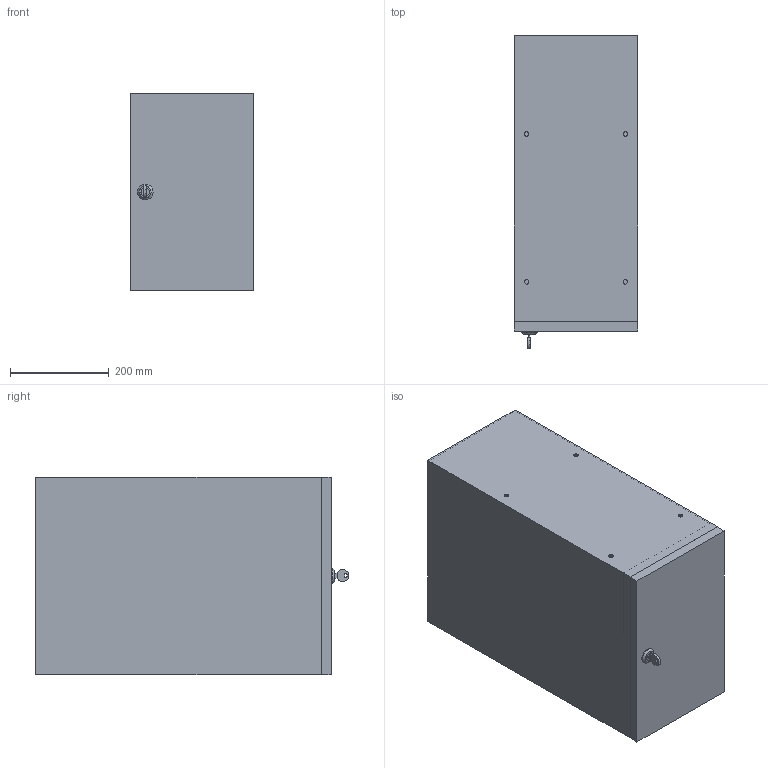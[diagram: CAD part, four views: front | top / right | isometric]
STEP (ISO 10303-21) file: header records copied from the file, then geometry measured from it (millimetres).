
FILE_DESCRIPTION((''),'2;1');
FILE_NAME('C:\Documents and Settings\Administrator\My Documents\Andys Backup Data\ANDY''S INVENTOR\INVENTOR LIBRARIES\MINITEC INVENTOR LIBRARIES\WORKSTATION\A PACKED FILES\STEP FILES\29.4712_1 TOOLS BOX RIGHT.stp','2010-07-06T09:30:31',('Administrator'),(''),'Autodesk Inventor 2009','Autodesk Inventor 2009','');
FILE_SCHEMA(('CONFIG_CONTROL_DESIGN'));
Length unit declared in the file: millimetre
Products named in the file (1): 29.4712_1 TOOLS BOX RIGHT
Bounding box: 250 x 635 x 400 mm (x, y, z)
Volume: 4218535.4 mm3; surface area: 1972897.2 mm2
Topology: 2 solids, 2 shells, 67 faces, 175 edges, 107 vertices
Faces by surface type: plane 52, cylinder 13, bspline 1, cone 1
Full cylindrical faces by diameter (mm): 9 x4, 17 x2, 31.979 x1
Entity records: 2123 total; most frequent: CARTESIAN_POINT 352, DIRECTION 331, ORIENTED_EDGE 330, EDGE_CURVE 165, VECTOR 133, LINE 133, VERTEX_POINT 105, AXIS2_PLACEMENT_3D 99
